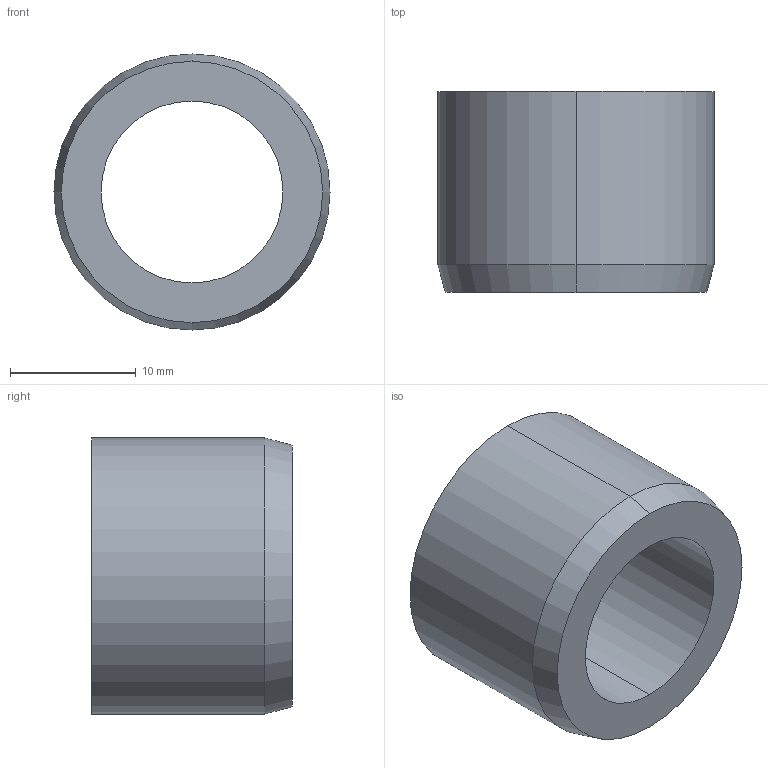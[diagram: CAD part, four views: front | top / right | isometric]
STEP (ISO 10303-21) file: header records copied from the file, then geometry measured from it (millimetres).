
FILE_DESCRIPTION (( 'STEP AP214' ), '1' );
FILE_NAME ('179-B14,5-16-A.step', '2024-10-17T05:53:07', ( '' ), ( '' ), 'SwSTEP 2.0', 'SolidWorks 2022', '' );
FILE_SCHEMA (( 'AUTOMOTIVE_DESIGN' ));
Length unit declared in the file: millimetre
Products named in the file (1): 179-B14,5-16-A
Bounding box: 22 x 16 x 22 mm (x, y, z)
Volume: 3390.8 mm3; surface area: 2212.2 mm2
Topology: 1 solids, 1 shells, 10 faces, 20 edges, 12 vertices
Faces by surface type: cylinder 4, cone 2, torus 2, plane 2
Entity records: 414 total; most frequent: DIRECTION 56, CARTESIAN_POINT 43, ORIENTED_EDGE 40, AXIS2_PLACEMENT_3D 25, EDGE_CURVE 20, CIRCLE 14, UNCERTAINTY_MEASURE_WITH_UNIT 13, PRESENTATION_LAYER_ASSIGNMENT 12
